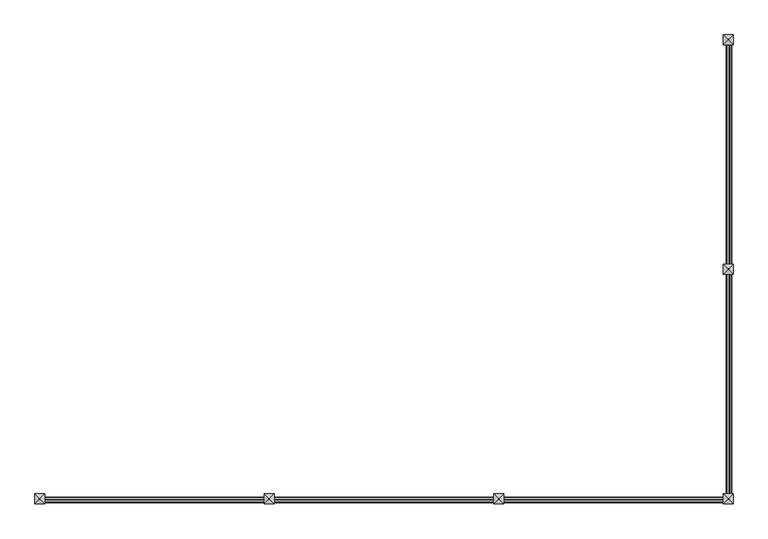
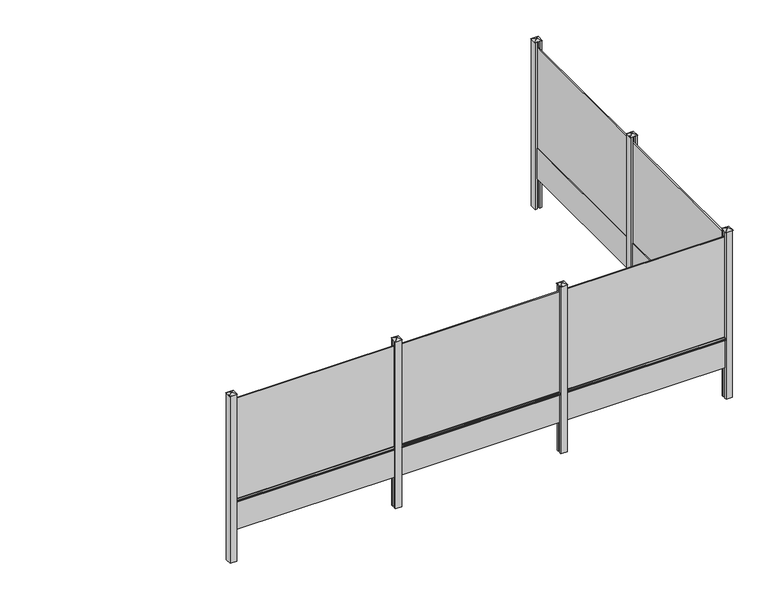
"""IFC4 building model written with IfcOpenShell, lengths in millimetres: railing geometry, Mehat - Railing - Plaque de Soubassement - Classique pour clôture rigide - 252.5x50x3.8 cm."""

from ifc_helpers import new_model, si_unit, point, frame, frame_2d, origin, origin_with_axes, place, context, project, spatial, polyline, circle_curve, trimmed, segment, composite_curve, outline, extrude, faceted_brep, source, transform, mapped, element, save


def railing_f42f2c7d(model_context):
    return source(origin(), model_context, "Body", "SolidModel", [
        extrude(outline(polyline([(141896.2516516, -11002.4943936), (141879.2516516, -11002.4943936), (141879.2516516, -8477.4943936), (141896.2516516, -8477.4943936), (141896.2516516, -11002.4943936)])), frame((0.0, 0.0, 500.0), z_axis=(0.0, 0.0, 1.0), x_axis=(1.0, 0.0, 0.0)), (0.0, 0.0, 1.0), 1650.0),
        extrude(outline(polyline([(141906.7516516, -11002.4943936), (141868.7516516, -11002.4943936), (141868.7516516, -8477.4943936), (141906.7516516, -8477.4943936), (141906.7516516, -11002.4943936)])), origin_with_axes(), (0.0, 0.0, 1.0), 500.0),
        extrude(outline(composite_curve([segment(polyline([(460.0, 141906.7516516), (467.1937129, 141928.3327905)]), True, "CONTINUOUS"), segment(trimmed(circle_curve(frame_2d((471.9371294, 141926.7516516)), 5.0), [point((467.1937129, 141928.3327905))], [point((471.9371294, 141931.7516516))], False, "CARTESIAN"), True, "CONTINUOUS"), segment(polyline([(471.9371294, 141931.7516516), (488.0628706, 141931.7516516)]), True, "CONTINUOUS"), segment(trimmed(circle_curve(frame_2d((488.0628706, 141926.7516516)), 5.0), [point((488.0628706, 141931.7516516))], [point((492.8062871, 141928.3327905))], False, "CARTESIAN"), True, "CONTINUOUS"), segment(polyline([(492.8062871, 141928.3327905), (500.0, 141906.7516516), (460.0, 141906.7516516)]), True, "CONTINUOUS")], self_intersect=False)), frame((0.0, -10977.4943936, 0.0), z_axis=(0.0, 1.0, 0.0), x_axis=(0.0, 0.0, 1.0)), (0.0, 0.0, 1.0), 2475.0),
        extrude(outline(polyline([(141937.7516516, -11077.4943936), (141906.7516516, -11077.4943936), (141906.7516516, -11052.4943936), (141868.7516516, -11052.4943936), (141868.7516516, -11077.4943936), (141837.7516516, -11077.4943936), (141837.7516516, -10977.4943936), (141868.7516516, -10977.4943936), (141868.7516516, -11002.4943936), (141906.7516516, -11002.4943936), (141906.7516516, -10977.4943936), (141937.7516516, -10977.4943936), (141937.7516516, -11077.4943936)])), frame((0.0, 0.0, -500.0), z_axis=(0.0, 0.0, 1.0), x_axis=(1.0, 0.0, 0.0)), (0.0, 0.0, 1.0), 2750.0),
        faceted_brep([(141881.3471055, -11021.1443936, 2275.4), (141881.3471055, -11033.8443936, 2275.4), (141894.0471055, -11033.8443936, 2275.4), (141894.0471055, -11021.1443936, 2275.4), (141831.4016516, -10971.1443936, 2250.0), (141944.1016516, -10971.1443936, 2250.0), (141944.1016516, -11083.8443936, 2250.0), (141831.4016516, -11083.8443936, 2250.0)], [[[0, 1, 2, 3]], [[4, 5, 6, 7]], [[4, 0, 3, 5]], [[5, 3, 2, 6]], [[6, 2, 1, 7]], [[7, 1, 0, 4]]]),
        extrude(outline(polyline([(141896.2516516, -13577.4943936), (141879.2516516, -13577.4943936), (141879.2516516, -11052.4943936), (141896.2516516, -11052.4943936), (141896.2516516, -13577.4943936)])), frame((0.0, 0.0, 500.0), z_axis=(0.0, 0.0, 1.0), x_axis=(1.0, 0.0, 0.0)), (0.0, 0.0, 1.0), 1650.0),
        extrude(outline(polyline([(141906.7516516, -13577.4943936), (141868.7516516, -13577.4943936), (141868.7516516, -11052.4943936), (141906.7516516, -11052.4943936), (141906.7516516, -13577.4943936)])), origin_with_axes(), (0.0, 0.0, 1.0), 500.0),
        extrude(outline(composite_curve([segment(polyline([(460.0, 141906.7516516), (467.1937129, 141928.3327905)]), True, "CONTINUOUS"), segment(trimmed(circle_curve(frame_2d((471.9371294, 141926.7516516)), 5.0), [point((467.1937129, 141928.3327905))], [point((471.9371294, 141931.7516516))], False, "CARTESIAN"), True, "CONTINUOUS"), segment(polyline([(471.9371294, 141931.7516516), (488.0628706, 141931.7516516)]), True, "CONTINUOUS"), segment(trimmed(circle_curve(frame_2d((488.0628706, 141926.7516516)), 5.0), [point((488.0628706, 141931.7516516))], [point((492.8062871, 141928.3327905))], False, "CARTESIAN"), True, "CONTINUOUS"), segment(polyline([(492.8062871, 141928.3327905), (500.0, 141906.7516516), (460.0, 141906.7516516)]), True, "CONTINUOUS")], self_intersect=False)), frame((0.0, -13552.4943936, 0.0), z_axis=(0.0, 1.0, 0.0), x_axis=(0.0, 0.0, 1.0)), (0.0, 0.0, 1.0), 2475.0),
        extrude(outline(polyline([(139337.7516516, -13610.9943936), (139337.7516516, -13593.9943936), (141862.7516516, -13593.9943936), (141862.7516516, -13610.9943936), (139337.7516516, -13610.9943936)])), frame((0.0, 0.0, 500.0), z_axis=(0.0, 0.0, 1.0), x_axis=(1.0, 0.0, 0.0)), (0.0, 0.0, 1.0), 1650.0),
        extrude(outline(polyline([(139337.7516516, -13621.4943936), (139337.7516516, -13583.4943936), (141862.7516516, -13583.4943936), (141862.7516516, -13621.4943936), (139337.7516516, -13621.4943936)])), origin_with_axes(), (0.0, 0.0, 1.0), 500.0),
        extrude(outline(composite_curve([segment(polyline([(-13621.4943936, 460.0), (-13643.0755325, 467.1937129)]), True, "CONTINUOUS"), segment(trimmed(circle_curve(frame_2d((-13641.4943936, 471.9371294)), 5.0), [point((-13643.0755325, 467.1937129))], [point((-13646.4943936, 471.9371294))], False, "CARTESIAN"), True, "CONTINUOUS"), segment(polyline([(-13646.4943936, 471.9371294), (-13646.4943936, 488.0628706)]), True, "CONTINUOUS"), segment(trimmed(circle_curve(frame_2d((-13641.4943936, 488.0628706)), 5.0), [point((-13646.4943936, 488.0628706))], [point((-13643.0755325, 492.8062871))], False, "CARTESIAN"), True, "CONTINUOUS"), segment(polyline([(-13643.0755325, 492.8062871), (-13621.4943936, 500.0), (-13621.4943936, 460.0)]), True, "CONTINUOUS")], self_intersect=False)), frame((139362.7516516, 0.0, 0.0), z_axis=(1.0, 0.0, 0.0), x_axis=(0.0, 1.0, 0.0)), (0.0, 0.0, 1.0), 2475.0),
        extrude(outline(polyline([(139262.7516516, -13652.4943936), (139262.7516516, -13621.4943936), (139287.7516516, -13621.4943936), (139287.7516516, -13583.4943936), (139262.7516516, -13583.4943936), (139262.7516516, -13552.4943936), (139362.7516516, -13552.4943936), (139362.7516516, -13583.4943936), (139337.7516516, -13583.4943936), (139337.7516516, -13621.4943936), (139362.7516516, -13621.4943936), (139362.7516516, -13652.4943936), (139262.7516516, -13652.4943936)])), frame((0.0, 0.0, -500.0), z_axis=(0.0, 0.0, 1.0), x_axis=(1.0, 0.0, 0.0)), (0.0, 0.0, 1.0), 2750.0),
        faceted_brep([(139319.1016516, -13596.0898475, 2275.4), (139306.4016516, -13596.0898475, 2275.4), (139306.4016516, -13608.7898475, 2275.4), (139319.1016516, -13608.7898475, 2275.4), (139369.1016516, -13546.1443936, 2250.0), (139369.1016516, -13658.8443936, 2250.0), (139256.4016516, -13658.8443936, 2250.0), (139256.4016516, -13546.1443936, 2250.0)], [[[0, 1, 2, 3]], [[4, 5, 6, 7]], [[4, 0, 3, 5]], [[5, 3, 2, 6]], [[6, 2, 1, 7]], [[7, 1, 0, 4]]]),
        extrude(outline(polyline([(136762.7516516, -13610.9943936), (136762.7516516, -13593.9943936), (139287.7516516, -13593.9943936), (139287.7516516, -13610.9943936), (136762.7516516, -13610.9943936)])), frame((0.0, 0.0, 500.0), z_axis=(0.0, 0.0, 1.0), x_axis=(1.0, 0.0, 0.0)), (0.0, 0.0, 1.0), 1650.0),
        extrude(outline(polyline([(136762.7516516, -13621.4943936), (136762.7516516, -13583.4943936), (139287.7516516, -13583.4943936), (139287.7516516, -13621.4943936), (136762.7516516, -13621.4943936)])), origin_with_axes(), (0.0, 0.0, 1.0), 500.0),
        extrude(outline(composite_curve([segment(polyline([(-13621.4943936, 460.0), (-13643.0755325, 467.1937129)]), True, "CONTINUOUS"), segment(trimmed(circle_curve(frame_2d((-13641.4943936, 471.9371294)), 5.0), [point((-13643.0755325, 467.1937129))], [point((-13646.4943936, 471.9371294))], False, "CARTESIAN"), True, "CONTINUOUS"), segment(polyline([(-13646.4943936, 471.9371294), (-13646.4943936, 488.0628706)]), True, "CONTINUOUS"), segment(trimmed(circle_curve(frame_2d((-13641.4943936, 488.0628706)), 5.0), [point((-13646.4943936, 488.0628706))], [point((-13643.0755325, 492.8062871))], False, "CARTESIAN"), True, "CONTINUOUS"), segment(polyline([(-13643.0755325, 492.8062871), (-13621.4943936, 500.0), (-13621.4943936, 460.0)]), True, "CONTINUOUS")], self_intersect=False)), frame((136787.7516516, 0.0, 0.0), z_axis=(1.0, 0.0, 0.0), x_axis=(0.0, 1.0, 0.0)), (0.0, 0.0, 1.0), 2475.0),
        extrude(outline(polyline([(136687.7516516, -13652.4943936), (136687.7516516, -13621.4943936), (136712.7516516, -13621.4943936), (136712.7516516, -13583.4943936), (136687.7516516, -13583.4943936), (136687.7516516, -13552.4943936), (136787.7516516, -13552.4943936), (136787.7516516, -13583.4943936), (136762.7516516, -13583.4943936), (136762.7516516, -13621.4943936), (136787.7516516, -13621.4943936), (136787.7516516, -13652.4943936), (136687.7516516, -13652.4943936)])), frame((0.0, 0.0, -500.0), z_axis=(0.0, 0.0, 1.0), x_axis=(1.0, 0.0, 0.0)), (0.0, 0.0, 1.0), 2750.0),
        faceted_brep([(136744.1016516, -13596.0898475, 2275.4), (136731.4016516, -13596.0898475, 2275.4), (136731.4016516, -13608.7898475, 2275.4), (136744.1016516, -13608.7898475, 2275.4), (136794.1016516, -13546.1443936, 2250.0), (136794.1016516, -13658.8443936, 2250.0), (136681.4016516, -13658.8443936, 2250.0), (136681.4016516, -13546.1443936, 2250.0)], [[[0, 1, 2, 3]], [[4, 5, 6, 7]], [[4, 0, 3, 5]], [[5, 3, 2, 6]], [[6, 2, 1, 7]], [[7, 1, 0, 4]]]),
        extrude(outline(polyline([(134187.7516516, -13610.9943936), (134187.7516516, -13593.9943936), (136712.7516516, -13593.9943936), (136712.7516516, -13610.9943936), (134187.7516516, -13610.9943936)])), frame((0.0, 0.0, 500.0), z_axis=(0.0, 0.0, 1.0), x_axis=(1.0, 0.0, 0.0)), (0.0, 0.0, 1.0), 1650.0),
        extrude(outline(polyline([(134187.7516516, -13621.4943936), (134187.7516516, -13583.4943936), (136712.7516516, -13583.4943936), (136712.7516516, -13621.4943936), (134187.7516516, -13621.4943936)])), origin_with_axes(), (0.0, 0.0, 1.0), 500.0),
        extrude(outline(composite_curve([segment(polyline([(-13621.4943936, 460.0), (-13643.0755325, 467.1937129)]), True, "CONTINUOUS"), segment(trimmed(circle_curve(frame_2d((-13641.4943936, 471.9371294)), 5.0), [point((-13643.0755325, 467.1937129))], [point((-13646.4943936, 471.9371294))], False, "CARTESIAN"), True, "CONTINUOUS"), segment(polyline([(-13646.4943936, 471.9371294), (-13646.4943936, 488.0628706)]), True, "CONTINUOUS"), segment(trimmed(circle_curve(frame_2d((-13641.4943936, 488.0628706)), 5.0), [point((-13646.4943936, 488.0628706))], [point((-13643.0755325, 492.8062871))], False, "CARTESIAN"), True, "CONTINUOUS"), segment(polyline([(-13643.0755325, 492.8062871), (-13621.4943936, 500.0), (-13621.4943936, 460.0)]), True, "CONTINUOUS")], self_intersect=False)), frame((134212.7516516, 0.0, 0.0), z_axis=(1.0, 0.0, 0.0), x_axis=(0.0, 1.0, 0.0)), (0.0, 0.0, 1.0), 2475.0),
        extrude(outline(polyline([(141837.7516516, -13652.4943936), (141837.7516516, -13621.4943936), (141862.7516516, -13621.4943936), (141862.7516516, -13583.4943936), (141837.7516516, -13583.4943936), (141837.7516516, -13552.4943936), (141868.7516516, -13552.4943936), (141868.7516516, -13577.4943936), (141906.7516516, -13577.4943936), (141906.7516516, -13552.4943936), (141937.7516516, -13552.4943936), (141937.7516516, -13652.4943936), (141837.7516516, -13652.4943936)])), frame((0.0, 0.0, -500.0), z_axis=(0.0, 0.0, 1.0), x_axis=(1.0, 0.0, 0.0)), (0.0, 0.0, 1.0), 2750.0),
        faceted_brep([(141894.1016516, -13596.0898475, 2275.4), (141881.4016516, -13596.0898475, 2275.4), (141881.4016516, -13608.7898475, 2275.4), (141894.1016516, -13608.7898475, 2275.4), (141944.1016516, -13546.1443936, 2250.0), (141944.1016516, -13658.8443936, 2250.0), (141831.4016516, -13658.8443936, 2250.0), (141831.4016516, -13546.1443936, 2250.0)], [[[0, 1, 2, 3]], [[4, 5, 6, 7]], [[4, 0, 3, 5]], [[5, 3, 2, 6]], [[6, 2, 1, 7]], [[7, 1, 0, 4]]]),
        extrude(outline(polyline([(141937.7516516, -8502.4943936), (141906.7516516, -8502.4943936), (141906.7516516, -8477.4943936), (141868.7516516, -8477.4943936), (141868.7516516, -8502.4943936), (141837.7516516, -8502.4943936), (141837.7516516, -8402.4943936), (141937.7516516, -8402.4943936), (141937.7516516, -8502.4943936)])), frame((0.0, 0.0, -500.0), z_axis=(0.0, 0.0, 1.0), x_axis=(1.0, 0.0, 0.0)), (0.0, 0.0, 1.0), 2750.0),
        faceted_brep([(141881.3471055, -8446.1443936, 2275.4), (141881.3471055, -8458.8443936, 2275.4), (141894.0471055, -8458.8443936, 2275.4), (141894.0471055, -8446.1443936, 2275.4), (141831.4016516, -8396.1443936, 2250.0), (141944.1016516, -8396.1443936, 2250.0), (141944.1016516, -8508.8443936, 2250.0), (141831.4016516, -8508.8443936, 2250.0)], [[[0, 1, 2, 3]], [[4, 5, 6, 7]], [[4, 0, 3, 5]], [[5, 3, 2, 6]], [[6, 2, 1, 7]], [[7, 1, 0, 4]]]),
        extrude(outline(polyline([(134112.7516516, -13652.4943936), (134112.7516516, -13552.4943936), (134212.7516516, -13552.4943936), (134212.7516516, -13583.4943936), (134187.7516516, -13583.4943936), (134187.7516516, -13621.4943936), (134212.7516516, -13621.4943936), (134212.7516516, -13652.4943936), (134112.7516516, -13652.4943936)])), frame((0.0, 0.0, -500.0), z_axis=(0.0, 0.0, 1.0), x_axis=(1.0, 0.0, 0.0)), (0.0, 0.0, 1.0), 2750.0),
        faceted_brep([(134169.1016516, -13596.0898475, 2275.4), (134156.4016516, -13596.0898475, 2275.4), (134156.4016516, -13608.7898475, 2275.4), (134169.1016516, -13608.7898475, 2275.4), (134219.1016516, -13546.1443936, 2250.0), (134219.1016516, -13658.8443936, 2250.0), (134106.4016516, -13658.8443936, 2250.0), (134106.4016516, -13546.1443936, 2250.0)], [[[0, 1, 2, 3]], [[4, 5, 6, 7]], [[4, 0, 3, 5]], [[5, 3, 2, 6]], [[6, 2, 1, 7]], [[7, 1, 0, 4]]]),
    ])


if __name__ == "__main__":
    model = new_model("IFC4")
    model_context = context("Model", 3, world=origin())
    ifc_project = project(units=[si_unit("LENGTHUNIT", "METRE", prefix="MILLI")], contexts=[model_context])
    site = spatial("IfcSite", under=ifc_project)
    building = spatial("IfcBuilding", under=site)
    placement = place(None, origin())
    railing_shape = railing_f42f2c7d(model_context)
    element("IfcRailing", 1, ObjectType="Mehat - Railing - Plaque de Soubassement - Classique pour clôture rigide - 252.5x50x3.8 cm", at=placement, inside=building, context=model_context, shape_type="MappedRepresentation", body=[
        mapped(railing_shape, transform((0.0, 0.0, 0.0), x_axis=(1.0, 0.0, 0.0), y_axis=(0.0, 1.0, 0.0), z_axis=(0.0, 0.0, 1.0))),
    ])
    save(model, "model.ifc")
